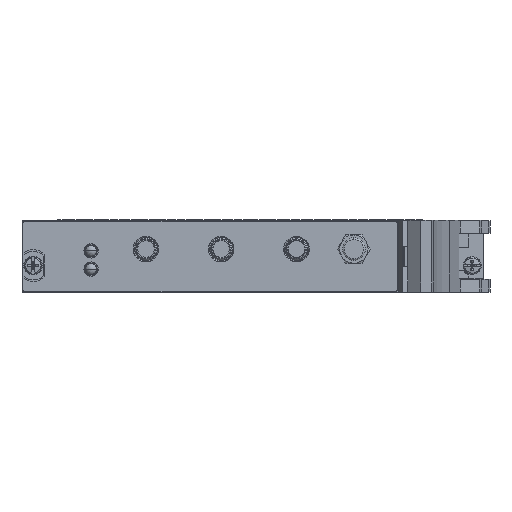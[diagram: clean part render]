
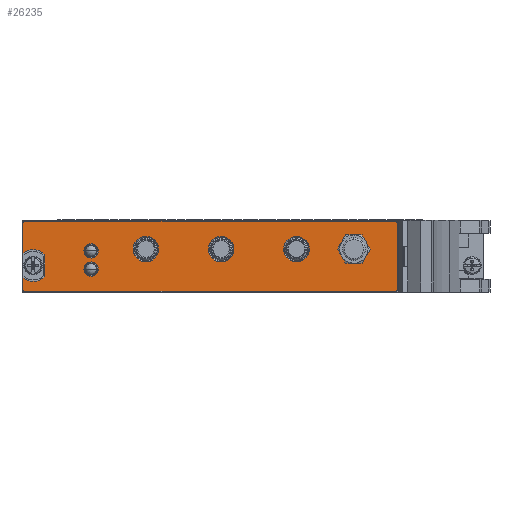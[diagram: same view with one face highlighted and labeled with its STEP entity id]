
A CAD part, top view. The second image highlights one B-rep face of the part: STEP entity #26235.
In plain terms, the highlighted planar face has unit normal (0, 0, 1).
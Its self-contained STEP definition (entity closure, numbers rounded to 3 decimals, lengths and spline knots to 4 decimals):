
#1093=CARTESIAN_POINT('',(0.03,-0.03,0.115));
#1094=DIRECTION('',(0.,0.,1.));
#1095=DIRECTION('',(0.,1.,0.));
#1096=AXIS2_PLACEMENT_3D('',#1093,#1094,#1095);
#1098=DIRECTION('',(-1.,0.,0.));
#1099=VECTOR('',#1098,4.07);
#1100=CARTESIAN_POINT('',(4.1,-0.01,0.115));
#1101=LINE('',#1100,#1099);
#1102=CARTESIAN_POINT('',(4.1,-0.03,0.115));
#1103=DIRECTION('',(0.,0.,1.));
#1104=DIRECTION('',(1.,0.,0.));
#1105=AXIS2_PLACEMENT_3D('',#1102,#1103,#1104);
#1107=DIRECTION('',(0.,1.,0.));
#1108=VECTOR('',#1107,0.728);
#1109=CARTESIAN_POINT('',(4.12,-0.758,0.115));
#1110=LINE('',#1109,#1108);
#1111=CARTESIAN_POINT('',(4.1,-0.758,0.115));
#1112=DIRECTION('',(0.,0.,1.));
#1113=DIRECTION('',(0.,-1.,0.));
#1114=AXIS2_PLACEMENT_3D('',#1111,#1112,#1113);
#1116=DIRECTION('',(1.,0.,0.));
#1117=VECTOR('',#1116,4.07);
#1118=CARTESIAN_POINT('',(0.03,-0.778,0.115));
#1119=LINE('',#1118,#1117);
#1120=CARTESIAN_POINT('',(0.03,-0.758,0.115));
#1121=DIRECTION('',(0.,0.,1.));
#1122=DIRECTION('',(-1.,0.,0.));
#1123=AXIS2_PLACEMENT_3D('',#1120,#1121,#1122);
#1125=DIRECTION('',(0.,-1.,0.));
#1126=VECTOR('',#1125,0.1295);
#1127=CARTESIAN_POINT('',(0.01,-0.6285,0.115));
#1128=LINE('',#1127,#1126);
#1129=CARTESIAN_POINT('',(0.122,-0.494,0.115));
#1130=DIRECTION('',(0.,0.,-1.));
#1131=DIRECTION('',(0.737,-0.676,0.));
#1132=AXIS2_PLACEMENT_3D('',#1129,#1130,#1131);
#1134=DIRECTION('',(0.,-1.,0.));
#1135=VECTOR('',#1134,0.2365);
#1136=CARTESIAN_POINT('',(0.251,-0.3757,0.115));
#1137=LINE('',#1136,#1135);
#1138=CARTESIAN_POINT('',(0.122,-0.494,0.115));
#1139=DIRECTION('',(0.,0.,-1.));
#1140=DIRECTION('',(-0.64,0.768,0.));
#1141=AXIS2_PLACEMENT_3D('',#1138,#1139,#1140);
#1143=DIRECTION('',(0.,-1.,0.));
#1144=VECTOR('',#1143,0.3295);
#1145=CARTESIAN_POINT('',(0.01,-0.03,0.115));
#1146=LINE('',#1145,#1144);
#1147=CARTESIAN_POINT('',(3.6435,-0.3137,0.115));
#1148=DIRECTION('',(0.,0.,1.));
#1149=DIRECTION('',(1.,0.,0.));
#1150=AXIS2_PLACEMENT_3D('',#1147,#1148,#1149);
#1152=CARTESIAN_POINT('',(3.6435,-0.3137,0.115));
#1153=DIRECTION('',(0.,0.,1.));
#1154=DIRECTION('',(-1.,0.,0.));
#1155=AXIS2_PLACEMENT_3D('',#1152,#1153,#1154);
#1157=CARTESIAN_POINT('',(3.0136,-0.3137,0.115));
#1158=DIRECTION('',(0.,0.,1.));
#1159=DIRECTION('',(1.,0.,0.));
#1160=AXIS2_PLACEMENT_3D('',#1157,#1158,#1159);
#1162=CARTESIAN_POINT('',(3.0136,-0.3137,0.115));
#1163=DIRECTION('',(0.,0.,1.));
#1164=DIRECTION('',(-1.,0.,0.));
#1165=AXIS2_PLACEMENT_3D('',#1162,#1163,#1164);
#1167=CARTESIAN_POINT('',(2.1868,-0.3137,0.115));
#1168=DIRECTION('',(0.,0.,1.));
#1169=DIRECTION('',(1.,0.,0.));
#1170=AXIS2_PLACEMENT_3D('',#1167,#1168,#1169);
#1172=CARTESIAN_POINT('',(2.1868,-0.3137,0.115));
#1173=DIRECTION('',(0.,0.,1.));
#1174=DIRECTION('',(-1.,0.,0.));
#1175=AXIS2_PLACEMENT_3D('',#1172,#1173,#1174);
#1177=CARTESIAN_POINT('',(1.3601,-0.3137,0.115));
#1178=DIRECTION('',(0.,0.,1.));
#1179=DIRECTION('',(1.,0.,0.));
#1180=AXIS2_PLACEMENT_3D('',#1177,#1178,#1179);
#1182=CARTESIAN_POINT('',(1.3601,-0.3137,0.115));
#1183=DIRECTION('',(0.,0.,1.));
#1184=DIRECTION('',(-1.,0.,0.));
#1185=AXIS2_PLACEMENT_3D('',#1182,#1183,#1184);
#1187=CARTESIAN_POINT('',(0.7585,-0.333,0.115));
#1188=DIRECTION('',(0.,0.,1.));
#1189=DIRECTION('',(0.,1.,0.));
#1190=AXIS2_PLACEMENT_3D('',#1187,#1188,#1189);
#1192=CARTESIAN_POINT('',(0.7585,-0.333,0.115));
#1193=DIRECTION('',(0.,0.,1.));
#1194=DIRECTION('',(0.,-1.,0.));
#1195=AXIS2_PLACEMENT_3D('',#1192,#1193,#1194);
#1197=CARTESIAN_POINT('',(0.7585,-0.533,0.115));
#1198=DIRECTION('',(0.,0.,1.));
#1199=DIRECTION('',(0.,1.,0.));
#1200=AXIS2_PLACEMENT_3D('',#1197,#1198,#1199);
#1202=CARTESIAN_POINT('',(0.7585,-0.533,0.115));
#1203=DIRECTION('',(0.,0.,1.));
#1204=DIRECTION('',(0.,-1.,0.));
#1205=AXIS2_PLACEMENT_3D('',#1202,#1203,#1204);
#23360=CARTESIAN_POINT('',(0.03,-0.01,0.115));
#23361=CARTESIAN_POINT('',(0.01,-0.03,0.115));
#23362=VERTEX_POINT('',#23360);
#23363=VERTEX_POINT('',#23361);
#23364=CARTESIAN_POINT('',(0.01,-0.3595,0.115));
#23365=VERTEX_POINT('',#23364);
#23366=CARTESIAN_POINT('',(0.251,-0.3757,0.115));
#23367=VERTEX_POINT('',#23366);
#23368=CARTESIAN_POINT('',(0.251,-0.6123,0.115));
#23369=VERTEX_POINT('',#23368);
#23370=CARTESIAN_POINT('',(0.01,-0.6285,0.115));
#23371=VERTEX_POINT('',#23370);
#23372=CARTESIAN_POINT('',(0.01,-0.758,0.115));
#23373=VERTEX_POINT('',#23372);
#23374=CARTESIAN_POINT('',(0.03,-0.778,0.115));
#23375=VERTEX_POINT('',#23374);
#23376=CARTESIAN_POINT('',(4.1,-0.778,0.115));
#23377=VERTEX_POINT('',#23376);
#23378=CARTESIAN_POINT('',(4.12,-0.758,0.115));
#23379=VERTEX_POINT('',#23378);
#23380=CARTESIAN_POINT('',(4.12,-0.03,0.115));
#23381=VERTEX_POINT('',#23380);
#23382=CARTESIAN_POINT('',(4.1,-0.01,0.115));
#23383=VERTEX_POINT('',#23382);
#23384=CARTESIAN_POINT('',(3.7835,-0.3137,0.115));
#23385=CARTESIAN_POINT('',(3.5035,-0.3137,0.115));
#23386=VERTEX_POINT('',#23384);
#23387=VERTEX_POINT('',#23385);
#23388=CARTESIAN_POINT('',(3.1536,-0.3137,0.115));
#23389=CARTESIAN_POINT('',(2.8736,-0.3137,0.115));
#23390=VERTEX_POINT('',#23388);
#23391=VERTEX_POINT('',#23389);
#23392=CARTESIAN_POINT('',(2.3268,-0.3137,0.115));
#23393=CARTESIAN_POINT('',(2.0468,-0.3137,0.115));
#23394=VERTEX_POINT('',#23392);
#23395=VERTEX_POINT('',#23393);
#23396=CARTESIAN_POINT('',(1.5001,-0.3137,0.115));
#23397=CARTESIAN_POINT('',(1.2201,-0.3137,0.115));
#23398=VERTEX_POINT('',#23396);
#23399=VERTEX_POINT('',#23397);
#23408=CARTESIAN_POINT('',(0.7585,-0.2545,0.115));
#23409=CARTESIAN_POINT('',(0.7585,-0.4115,0.115));
#23410=VERTEX_POINT('',#23408);
#23411=VERTEX_POINT('',#23409);
#23412=CARTESIAN_POINT('',(0.7585,-0.4545,0.115));
#23413=CARTESIAN_POINT('',(0.7585,-0.6115,0.115));
#23414=VERTEX_POINT('',#23412);
#23415=VERTEX_POINT('',#23413);
#26171=CARTESIAN_POINT('',(0.122,-0.494,0.115));
#26172=DIRECTION('',(0.,0.,1.));
#26173=DIRECTION('',(0.,1.,0.));
#26174=AXIS2_PLACEMENT_3D('',#26171,#26172,#26173);
#26175=PLANE('',#26174);
#26176=ORIENTED_EDGE('',*,*,#26151,.F.);
#26177=ORIENTED_EDGE('',*,*,#26165,.F.);
#26178=ORIENTED_EDGE('',*,*,#26083,.F.);
#26180=ORIENTED_EDGE('',*,*,#26179,.F.);
#26182=ORIENTED_EDGE('',*,*,#26181,.F.);
#26184=ORIENTED_EDGE('',*,*,#26183,.F.);
#26186=ORIENTED_EDGE('',*,*,#26185,.F.);
#26188=ORIENTED_EDGE('',*,*,#26187,.F.);
#26190=ORIENTED_EDGE('',*,*,#26189,.F.);
#26192=ORIENTED_EDGE('',*,*,#26191,.F.);
#26194=ORIENTED_EDGE('',*,*,#26193,.F.);
#26196=ORIENTED_EDGE('',*,*,#26195,.F.);
#26197=EDGE_LOOP('',(#26176,#26177,#26178,#26180,#26182,#26184,#26186,#26188,
#26190,#26192,#26194,#26196));
#26198=FACE_OUTER_BOUND('',#26197,.F.);
#26200=ORIENTED_EDGE('',*,*,#26199,.T.);
#26202=ORIENTED_EDGE('',*,*,#26201,.T.);
#26203=EDGE_LOOP('',(#26200,#26202));
#26204=FACE_BOUND('',#26203,.F.);
#26206=ORIENTED_EDGE('',*,*,#26205,.T.);
#26208=ORIENTED_EDGE('',*,*,#26207,.T.);
#26209=EDGE_LOOP('',(#26206,#26208));
#26210=FACE_BOUND('',#26209,.F.);
#26212=ORIENTED_EDGE('',*,*,#26211,.T.);
#26214=ORIENTED_EDGE('',*,*,#26213,.T.);
#26215=EDGE_LOOP('',(#26212,#26214));
#26216=FACE_BOUND('',#26215,.F.);
#26218=ORIENTED_EDGE('',*,*,#26217,.T.);
#26220=ORIENTED_EDGE('',*,*,#26219,.T.);
#26221=EDGE_LOOP('',(#26218,#26220));
#26222=FACE_BOUND('',#26221,.F.);
#26224=ORIENTED_EDGE('',*,*,#26223,.T.);
#26226=ORIENTED_EDGE('',*,*,#26225,.T.);
#26227=EDGE_LOOP('',(#26224,#26226));
#26228=FACE_BOUND('',#26227,.F.);
#26230=ORIENTED_EDGE('',*,*,#26229,.T.);
#26232=ORIENTED_EDGE('',*,*,#26231,.T.);
#26233=EDGE_LOOP('',(#26230,#26232));
#26234=FACE_BOUND('',#26233,.F.);
#26235=ADVANCED_FACE('',(#26198,#26204,#26210,#26216,#26222,#26228,#26234),
#26175,.T.);
#1097=CIRCLE('',#1096,0.02);
#1106=CIRCLE('',#1105,0.02);
#1115=CIRCLE('',#1114,0.02);
#1124=CIRCLE('',#1123,0.02);
#1133=CIRCLE('',#1132,0.175);
#1142=CIRCLE('',#1141,0.175);
#1151=CIRCLE('',#1150,0.14);
#1156=CIRCLE('',#1155,0.14);
#1161=CIRCLE('',#1160,0.14);
#1166=CIRCLE('',#1165,0.14);
#1171=CIRCLE('',#1170,0.14);
#1176=CIRCLE('',#1175,0.14);
#1181=CIRCLE('',#1180,0.14);
#1186=CIRCLE('',#1185,0.14);
#1191=CIRCLE('',#1190,0.0785);
#1196=CIRCLE('',#1195,0.0785);
#1201=CIRCLE('',#1200,0.0785);
#1206=CIRCLE('',#1205,0.0785);
#26083=EDGE_CURVE('',#23381,#23383,#1106,.T.);
#26151=EDGE_CURVE('',#23362,#23363,#1097,.T.);
#26165=EDGE_CURVE('',#23383,#23362,#1101,.T.);
#26179=EDGE_CURVE('',#23379,#23381,#1110,.T.);
#26181=EDGE_CURVE('',#23377,#23379,#1115,.T.);
#26183=EDGE_CURVE('',#23375,#23377,#1119,.T.);
#26185=EDGE_CURVE('',#23373,#23375,#1124,.T.);
#26187=EDGE_CURVE('',#23371,#23373,#1128,.T.);
#26189=EDGE_CURVE('',#23369,#23371,#1133,.T.);
#26191=EDGE_CURVE('',#23367,#23369,#1137,.T.);
#26193=EDGE_CURVE('',#23365,#23367,#1142,.T.);
#26195=EDGE_CURVE('',#23363,#23365,#1146,.T.);
#26199=EDGE_CURVE('',#23386,#23387,#1151,.T.);
#26201=EDGE_CURVE('',#23387,#23386,#1156,.T.);
#26205=EDGE_CURVE('',#23390,#23391,#1161,.T.);
#26207=EDGE_CURVE('',#23391,#23390,#1166,.T.);
#26211=EDGE_CURVE('',#23394,#23395,#1171,.T.);
#26213=EDGE_CURVE('',#23395,#23394,#1176,.T.);
#26217=EDGE_CURVE('',#23398,#23399,#1181,.T.);
#26219=EDGE_CURVE('',#23399,#23398,#1186,.T.);
#26223=EDGE_CURVE('',#23410,#23411,#1191,.T.);
#26225=EDGE_CURVE('',#23411,#23410,#1196,.T.);
#26229=EDGE_CURVE('',#23414,#23415,#1201,.T.);
#26231=EDGE_CURVE('',#23415,#23414,#1206,.T.);
